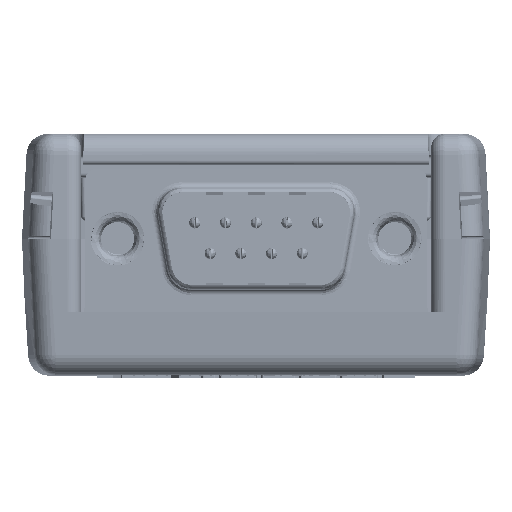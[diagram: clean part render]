
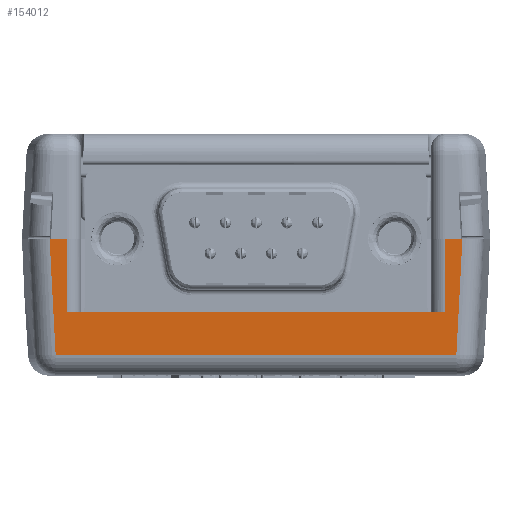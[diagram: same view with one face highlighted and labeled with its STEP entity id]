
A CAD part, top view. The second image highlights one B-rep face of the part: STEP entity #154012.
In plain terms, the highlighted planar face has unit normal (0, -0.052, 0.999).
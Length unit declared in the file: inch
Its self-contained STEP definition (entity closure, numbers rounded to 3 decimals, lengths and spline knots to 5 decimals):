
#14761 = VERTEX_POINT ( 'NONE', #59996 ) ;
#15127 = EDGE_CURVE ( 'NONE', #14761, #247313, #274248, .T. ) ;
#22360 = CARTESIAN_POINT ( 'NONE',  ( -0.05012, 0.484, 0. ) ) ;
#25083 = DIRECTION ( 'NONE',  ( 0.052, -0.997, -0.052 ) ) ;
#26795 = CARTESIAN_POINT ( 'NONE',  ( -0.05012, 0.484, 0. ) ) ;
#28196 = CARTESIAN_POINT ( 'NONE',  ( -0.05012, 0.484, 0. ) ) ;
#28248 = ORIENTED_EDGE ( 'NONE', *, *, #242234, .F. ) ;
#28882 = VECTOR ( 'NONE', #25083, 39.37008 ) ;
#41716 = ORIENTED_EDGE ( 'NONE', *, *, #149628, .T. ) ;
#45542 = CARTESIAN_POINT ( 'NONE',  ( -1.479, 0.484, 0. ) ) ;
#46881 = LINE ( 'NONE', #276556, #211876 ) ;
#50903 = LINE ( 'NONE', #26795, #77981 ) ;
#52530 = LINE ( 'NONE', #135342, #28882 ) ;
#59996 = CARTESIAN_POINT ( 'NONE',  ( -0.136, 0.484, 0. ) ) ;
#70255 = DIRECTION ( 'NONE',  ( 1., 0., 0. ) ) ;
#71688 = ORIENTED_EDGE ( 'NONE', *, *, #196721, .T. ) ;
#76422 = LINE ( 'NONE', #149043, #160556 ) ;
#76874 = DIRECTION ( 'NONE',  ( 1., 0., 0. ) ) ;
#77981 = VECTOR ( 'NONE', #70255, 39.37008 ) ;
#78519 = ORIENTED_EDGE ( 'NONE', *, *, #15127, .F. ) ;
#82684 = DIRECTION ( 'NONE',  ( 0.052, 0.997, 0.052 ) ) ;
#83029 = ORIENTED_EDGE ( 'NONE', *, *, #248791, .T. ) ;
#83818 = PLANE ( 'NONE',  #103110 ) ;
#92568 = CARTESIAN_POINT ( 'NONE',  ( -0.09654, 0.07107, -0.02164 ) ) ;
#99248 = VERTEX_POINT ( 'NONE', #251181 ) ;
#102170 = CARTESIAN_POINT ( 'NONE',  ( -0.02537, 0.07107, -0.02164 ) ) ;
#103110 = AXIS2_PLACEMENT_3D ( 'NONE', #22360, #171153, #211690 ) ;
#105305 = VERTEX_POINT ( 'NONE', #218686 ) ;
#109828 = EDGE_LOOP ( 'NONE', ( #78519, #109973, #164945, #71688, #28248, #41716, #238955, #83029 ) ) ;
#109973 = ORIENTED_EDGE ( 'NONE', *, *, #272065, .T. ) ;
#114053 = DIRECTION ( 'NONE',  ( 1., 0., 0. ) ) ;
#123497 = CARTESIAN_POINT ( 'NONE',  ( -0.0749, 0.484, 0. ) ) ;
#126937 = CARTESIAN_POINT ( 'NONE',  ( -0.136, 0.224, -0.01363 ) ) ;
#128142 = VECTOR ( 'NONE', #150986, 39.37008 ) ;
#134103 = EDGE_CURVE ( 'NONE', #254366, #201852, #188988, .T. ) ;
#135342 = CARTESIAN_POINT ( 'NONE',  ( -1.53603, 0.40634, -0.00407 ) ) ;
#137482 = LINE ( 'NONE', #278688, #221675 ) ;
#149043 = CARTESIAN_POINT ( 'NONE',  ( -0.136, 0.484, 0. ) ) ;
#149628 = EDGE_CURVE ( 'NONE', #105305, #254366, #52530, .T. ) ;
#150986 = DIRECTION ( 'NONE',  ( 0., 0.999, 0.052 ) ) ;
#154012 = ADVANCED_FACE ( 'NONE', ( #230004 ), #83818, .T. ) ;
#160556 = VECTOR ( 'NONE', #213935, 39.37008 ) ;
#164945 = ORIENTED_EDGE ( 'NONE', *, *, #249829, .F. ) ;
#171153 = DIRECTION ( 'NONE',  ( 0., -0.052, 0.999 ) ) ;
#179822 = VECTOR ( 'NONE', #114053, 39.37008 ) ;
#188988 = LINE ( 'NONE', #102170, #195828 ) ;
#195828 = VECTOR ( 'NONE', #76874, 39.37008 ) ;
#196721 = EDGE_CURVE ( 'NONE', #99248, #256361, #276438, .T. ) ;
#201852 = VERTEX_POINT ( 'NONE', #92568 ) ;
#208037 = VERTEX_POINT ( 'NONE', #126937 ) ;
#211690 = DIRECTION ( 'NONE',  ( 0., -0.999, -0.052 ) ) ;
#211876 = VECTOR ( 'NONE', #82684, 39.37008 ) ;
#213935 = DIRECTION ( 'NONE',  ( 0., -0.999, -0.052 ) ) ;
#214567 = DIRECTION ( 'NONE',  ( 1., 0., 0. ) ) ;
#218686 = CARTESIAN_POINT ( 'NONE',  ( -1.5401, 0.484, 0. ) ) ;
#221675 = VECTOR ( 'NONE', #214567, 39.37008 ) ;
#226627 = CARTESIAN_POINT ( 'NONE',  ( -1.51846, 0.07107, -0.02164 ) ) ;
#230004 = FACE_OUTER_BOUND ( 'NONE', #109828, .T. ) ;
#238955 = ORIENTED_EDGE ( 'NONE', *, *, #134103, .T. ) ;
#242234 = EDGE_CURVE ( 'NONE', #105305, #256361, #50903, .T. ) ;
#247313 = VERTEX_POINT ( 'NONE', #123497 ) ;
#248791 = EDGE_CURVE ( 'NONE', #201852, #247313, #46881, .T. ) ;
#249829 = EDGE_CURVE ( 'NONE', #99248, #208037, #137482, .T. ) ;
#251181 = CARTESIAN_POINT ( 'NONE',  ( -1.479, 0.224, -0.01363 ) ) ;
#254366 = VERTEX_POINT ( 'NONE', #226627 ) ;
#256361 = VERTEX_POINT ( 'NONE', #260636 ) ;
#260636 = CARTESIAN_POINT ( 'NONE',  ( -1.479, 0.484, 0. ) ) ;
#272065 = EDGE_CURVE ( 'NONE', #14761, #208037, #76422, .T. ) ;
#274248 = LINE ( 'NONE', #28196, #179822 ) ;
#276438 = LINE ( 'NONE', #45542, #128142 ) ;
#276556 = CARTESIAN_POINT ( 'NONE',  ( -0.07483, 0.48529, 0.00007 ) ) ;
#278688 = CARTESIAN_POINT ( 'NONE',  ( -1.429, 0.224, -0.01363 ) ) ;
